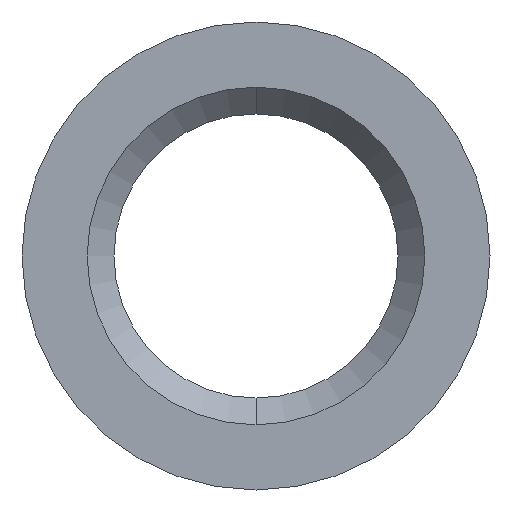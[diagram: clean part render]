
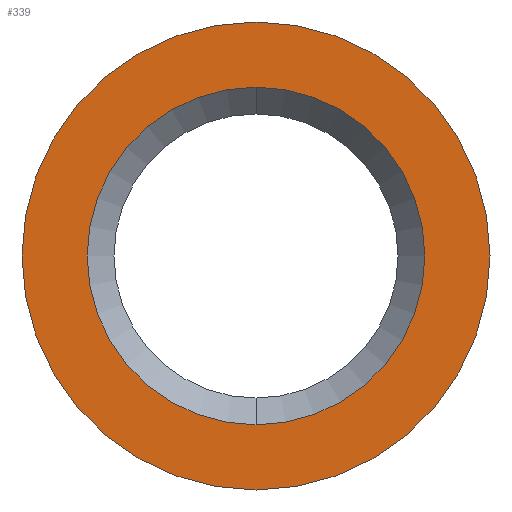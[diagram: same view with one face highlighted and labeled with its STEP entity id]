
A CAD part, left-side view. The second image highlights one B-rep face of the part: STEP entity #339.
In plain terms, the highlighted planar face has unit normal (-1, 0, 0).
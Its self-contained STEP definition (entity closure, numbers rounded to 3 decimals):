
#1 = VERTEX_POINT ( 'NONE', #763 ) ;
#2 = ORIENTED_EDGE ( 'NONE', *, *, #890, .F. ) ;
#19 = FACE_OUTER_BOUND ( 'NONE', #397, .T. ) ;
#32 = EDGE_CURVE ( 'NONE', #57, #1, #785, .T. ) ;
#35 = CARTESIAN_POINT ( 'NONE',  ( -14.05, 0., 0. ) ) ;
#57 = VERTEX_POINT ( 'NONE', #455 ) ;
#72 = EDGE_CURVE ( 'NONE', #421, #91, #365, .T. ) ;
#75 = ORIENTED_EDGE ( 'NONE', *, *, #72, .F. ) ;
#91 = VERTEX_POINT ( 'NONE', #591 ) ;
#169 = DIRECTION ( 'NONE',  ( 0., 0., 1. ) ) ;
#204 = ORIENTED_EDGE ( 'NONE', *, *, #310, .T. ) ;
#207 = AXIS2_PLACEMENT_3D ( 'NONE', #646, #579, #511 ) ;
#256 = EDGE_LOOP ( 'NONE', ( #274, #204 ) ) ;
#258 = DIRECTION ( 'NONE',  ( 1., 0., 0. ) ) ;
#274 = ORIENTED_EDGE ( 'NONE', *, *, #32, .T. ) ;
#283 = CIRCLE ( 'NONE', #207, 7. ) ;
#296 = AXIS2_PLACEMENT_3D ( 'NONE', #316, #258, #727 ) ;
#310 = EDGE_CURVE ( 'NONE', #1, #57, #811, .T. ) ;
#313 = CARTESIAN_POINT ( 'NONE',  ( -14.05, 7., 0. ) ) ;
#316 = CARTESIAN_POINT ( 'NONE',  ( -14.05, 0., 0. ) ) ;
#339 = ADVANCED_FACE ( 'NONE', ( #392, #19 ), #509, .T. ) ;
#365 = CIRCLE ( 'NONE', #296, 7. ) ;
#392 = FACE_BOUND ( 'NONE', #256, .T. ) ;
#397 = EDGE_LOOP ( 'NONE', ( #2, #75 ) ) ;
#421 = VERTEX_POINT ( 'NONE', #762 ) ;
#423 = DIRECTION ( 'NONE',  ( 0., 0., 1. ) ) ;
#455 = CARTESIAN_POINT ( 'NONE',  ( -14.05, 0., 5.05 ) ) ;
#485 = AXIS2_PLACEMENT_3D ( 'NONE', #35, #505, #583 ) ;
#492 = CARTESIAN_POINT ( 'NONE',  ( -14.05, 0., 0. ) ) ;
#505 = DIRECTION ( 'NONE',  ( 1., 0., 0. ) ) ;
#509 = PLANE ( 'NONE',  #812 ) ;
#511 = DIRECTION ( 'NONE',  ( 0., 0., -1. ) ) ;
#579 = DIRECTION ( 'NONE',  ( 1., 0., 0. ) ) ;
#583 = DIRECTION ( 'NONE',  ( 0., 0., 1. ) ) ;
#591 = CARTESIAN_POINT ( 'NONE',  ( -14.05, 0., -7. ) ) ;
#597 = DIRECTION ( 'NONE',  ( -1., 0., 0. ) ) ;
#646 = CARTESIAN_POINT ( 'NONE',  ( -14.05, 0., 0. ) ) ;
#695 = DIRECTION ( 'NONE',  ( 1., 0., 0. ) ) ;
#701 = AXIS2_PLACEMENT_3D ( 'NONE', #492, #695, #423 ) ;
#727 = DIRECTION ( 'NONE',  ( 0., 0., -1. ) ) ;
#762 = CARTESIAN_POINT ( 'NONE',  ( -14.05, 0., 7. ) ) ;
#763 = CARTESIAN_POINT ( 'NONE',  ( -14.05, 0., -5.05 ) ) ;
#785 = CIRCLE ( 'NONE', #701, 5.05 ) ;
#811 = CIRCLE ( 'NONE', #485, 5.05 ) ;
#812 = AXIS2_PLACEMENT_3D ( 'NONE', #313, #597, #169 ) ;
#890 = EDGE_CURVE ( 'NONE', #91, #421, #283, .T. ) ;
